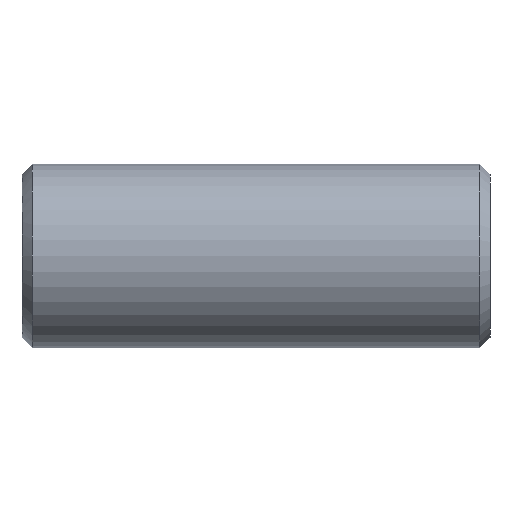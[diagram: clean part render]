
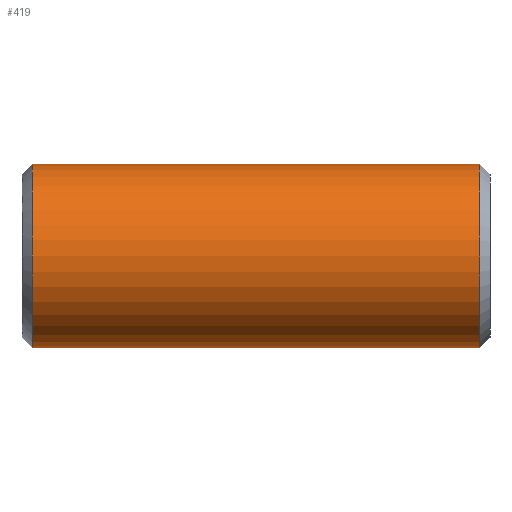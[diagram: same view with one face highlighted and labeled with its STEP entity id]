
A CAD part, front view. The second image highlights one B-rep face of the part: STEP entity #419.
In plain terms, the highlighted cylindrical face has radius 9 mm (diameter 18 mm), a partial arc.
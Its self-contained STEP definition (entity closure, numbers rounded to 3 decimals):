
#231=CARTESIAN_POINT('Vertex',(1.,0.,-9.)) ;
#238=CARTESIAN_POINT('Vertex',(1.,0.,9.)) ;
#267=CARTESIAN_POINT('Axis2P3D Location',(1.,0.,0.)) ;
#271=CARTESIAN_POINT('Vertex',(1.,-9.,0.)) ;
#274=CARTESIAN_POINT('Axis2P3D Location',(1.,0.,0.)) ;
#359=CARTESIAN_POINT('Line Origine',(46.,0.,9.)) ;
#363=CARTESIAN_POINT('Vertex',(45.,0.,9.)) ;
#377=CARTESIAN_POINT('Vertex',(45.,0.,-9.)) ;
#380=CARTESIAN_POINT('Line Origine',(46.,0.,-9.)) ;
#394=CARTESIAN_POINT('Axis2P3D Location',(46.,0.,0.)) ;
#399=CARTESIAN_POINT('Axis2P3D Location',(45.,0.,0.)) ;
#403=CARTESIAN_POINT('Vertex',(45.,-9.,0.)) ;
#406=CARTESIAN_POINT('Axis2P3D Location',(45.,0.,0.)) ;
#268=DIRECTION('Axis2P3D Direction',(1.,0.,-0.)) ;
#275=DIRECTION('Axis2P3D Direction',(1.,0.,-0.)) ;
#360=DIRECTION('Vector Direction',(-1.,0.,0.)) ;
#381=DIRECTION('Vector Direction',(-1.,0.,0.)) ;
#395=DIRECTION('Axis2P3D Direction',(-1.,-0.,-0.)) ;
#396=DIRECTION('Axis2P3D XDirection',(0.,0.,-1.)) ;
#400=DIRECTION('Axis2P3D Direction',(-1.,-0.,-0.)) ;
#407=DIRECTION('Axis2P3D Direction',(-1.,-0.,-0.)) ;
#269=AXIS2_PLACEMENT_3D('Circle Axis2P3D',#267,#268,$) ;
#276=AXIS2_PLACEMENT_3D('Circle Axis2P3D',#274,#275,$) ;
#397=AXIS2_PLACEMENT_3D('Cylinder Axis2P3D',#394,#395,#396) ;
#401=AXIS2_PLACEMENT_3D('Circle Axis2P3D',#399,#400,$) ;
#408=AXIS2_PLACEMENT_3D('Circle Axis2P3D',#406,#407,$) ;
#412=ORIENTED_EDGE('',*,*,#384,.T.) ;
#413=ORIENTED_EDGE('',*,*,#405,.F.) ;
#414=ORIENTED_EDGE('',*,*,#410,.F.) ;
#415=ORIENTED_EDGE('',*,*,#365,.T.) ;
#416=ORIENTED_EDGE('',*,*,#278,.T.) ;
#417=ORIENTED_EDGE('',*,*,#273,.T.) ;
#361=VECTOR('Line Direction',#360,1.) ;
#382=VECTOR('Line Direction',#381,1.) ;
#419=ADVANCED_FACE('352-12X46',(#418),#398,.T.) ;
#270=CIRCLE('generated circle',#269,9.) ;
#277=CIRCLE('generated circle',#276,9.) ;
#402=CIRCLE('generated circle',#401,9.) ;
#409=CIRCLE('generated circle',#408,9.) ;
#398=CYLINDRICAL_SURFACE('generated cylinder',#397,9.) ;
#273=EDGE_CURVE('',#272,#232,#270,.T.) ;
#278=EDGE_CURVE('',#239,#272,#277,.T.) ;
#365=EDGE_CURVE('',#364,#239,#362,.T.) ;
#384=EDGE_CURVE('',#232,#378,#383,.F.) ;
#405=EDGE_CURVE('',#404,#378,#402,.F.) ;
#410=EDGE_CURVE('',#364,#404,#409,.F.) ;
#411=EDGE_LOOP('',(#412,#413,#414,#415,#416,#417)) ;
#418=FACE_OUTER_BOUND('',#411,.T.) ;
#362=LINE('Line',#359,#361) ;
#383=LINE('Line',#380,#382) ;
#232=VERTEX_POINT('',#231) ;
#239=VERTEX_POINT('',#238) ;
#272=VERTEX_POINT('',#271) ;
#364=VERTEX_POINT('',#363) ;
#378=VERTEX_POINT('',#377) ;
#404=VERTEX_POINT('',#403) ;
